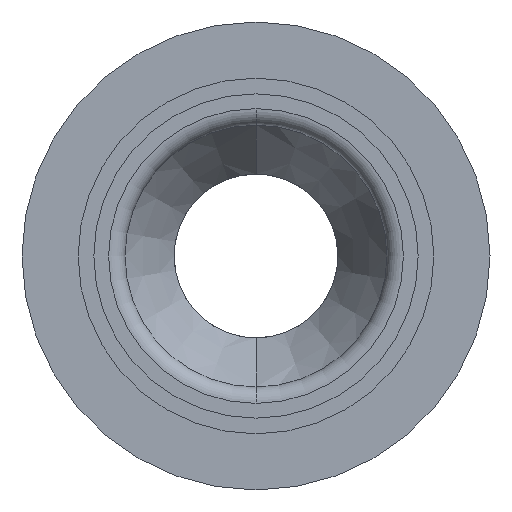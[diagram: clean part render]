
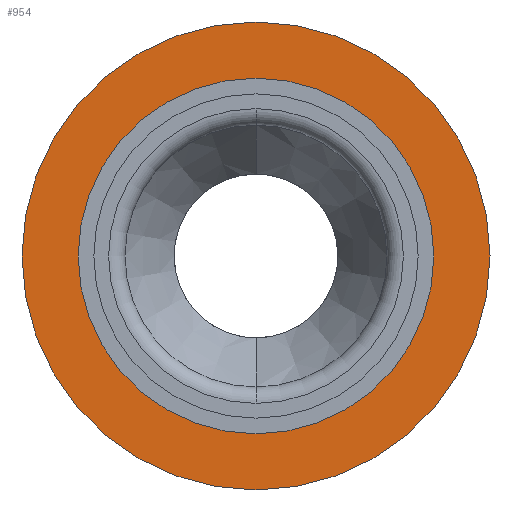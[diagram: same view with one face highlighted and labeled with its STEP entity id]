
A CAD part, front view. The second image highlights one B-rep face of the part: STEP entity #954.
In plain terms, the highlighted planar face has unit normal (0, -1, 0).
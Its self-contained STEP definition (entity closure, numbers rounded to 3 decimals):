
#146 = DIRECTION ( 'NONE',  ( 0., -1., 0. ) ) ;
#502 = AXIS2_PLACEMENT_3D ( 'NONE', #1125, #3077, #4535 ) ;
#642 = EDGE_CURVE ( 'NONE', #2531, #6106, #2020, .T. ) ;
#643 = EDGE_CURVE ( 'NONE', #5699, #1713, #6277, .T. ) ;
#679 = CARTESIAN_POINT ( 'NONE',  ( -369.933, -8708.459, -6.9 ) ) ;
#821 = ORIENTED_EDGE ( 'NONE', *, *, #643, .T. ) ;
#866 = AXIS2_PLACEMENT_3D ( 'NONE', #5808, #5851, #2950 ) ;
#954 = ADVANCED_FACE ( 'NONE', ( #4051, #1003 ), #6218, .F. ) ;
#1003 = FACE_OUTER_BOUND ( 'NONE', #4015, .T. ) ;
#1051 = CIRCLE ( 'NONE', #866, 6.9 ) ;
#1084 = DIRECTION ( 'NONE',  ( 0., -1., 0. ) ) ;
#1102 = CARTESIAN_POINT ( 'NONE',  ( -369.933, -8708.459, 10. ) ) ;
#1125 = CARTESIAN_POINT ( 'NONE',  ( -369.933, -8708.459, 0. ) ) ;
#1147 = DIRECTION ( 'NONE',  ( 0., 0., -1. ) ) ;
#1642 = ORIENTED_EDGE ( 'NONE', *, *, #5116, .F. ) ;
#1649 = AXIS2_PLACEMENT_3D ( 'NONE', #4256, #5680, #2820 ) ;
#1655 = ORIENTED_EDGE ( 'NONE', *, *, #642, .F. ) ;
#1713 = VERTEX_POINT ( 'NONE', #1820 ) ;
#1820 = CARTESIAN_POINT ( 'NONE',  ( -369.933, -8708.459, -10. ) ) ;
#2020 = CIRCLE ( 'NONE', #5519, 6.9 ) ;
#2344 = EDGE_CURVE ( 'NONE', #1713, #5699, #2570, .T. ) ;
#2531 = VERTEX_POINT ( 'NONE', #4157 ) ;
#2570 = CIRCLE ( 'NONE', #4092, 10. ) ;
#2820 = DIRECTION ( 'NONE',  ( 0., 0., 1. ) ) ;
#2950 = DIRECTION ( 'NONE',  ( 0., 0., 1. ) ) ;
#3077 = DIRECTION ( 'NONE',  ( 0., -1., 0. ) ) ;
#3336 = ORIENTED_EDGE ( 'NONE', *, *, #2344, .T. ) ;
#4015 = EDGE_LOOP ( 'NONE', ( #3336, #821 ) ) ;
#4051 = FACE_BOUND ( 'NONE', #5427, .T. ) ;
#4092 = AXIS2_PLACEMENT_3D ( 'NONE', #5484, #1084, #1147 ) ;
#4157 = CARTESIAN_POINT ( 'NONE',  ( -369.933, -8708.459, 6.9 ) ) ;
#4256 = CARTESIAN_POINT ( 'NONE',  ( -0.007, -8708.459, 0. ) ) ;
#4535 = DIRECTION ( 'NONE',  ( 0., 0., -1. ) ) ;
#4978 = DIRECTION ( 'NONE',  ( 0., 0., 1. ) ) ;
#5116 = EDGE_CURVE ( 'NONE', #6106, #2531, #1051, .T. ) ;
#5427 = EDGE_LOOP ( 'NONE', ( #1642, #1655 ) ) ;
#5484 = CARTESIAN_POINT ( 'NONE',  ( -369.933, -8708.459, 0. ) ) ;
#5519 = AXIS2_PLACEMENT_3D ( 'NONE', #6015, #146, #4978 ) ;
#5680 = DIRECTION ( 'NONE',  ( 0., 1., 0. ) ) ;
#5699 = VERTEX_POINT ( 'NONE', #1102 ) ;
#5808 = CARTESIAN_POINT ( 'NONE',  ( -369.933, -8708.459, 0. ) ) ;
#5851 = DIRECTION ( 'NONE',  ( 0., -1., 0. ) ) ;
#6015 = CARTESIAN_POINT ( 'NONE',  ( -369.933, -8708.459, 0. ) ) ;
#6106 = VERTEX_POINT ( 'NONE', #679 ) ;
#6218 = PLANE ( 'NONE',  #1649 ) ;
#6277 = CIRCLE ( 'NONE', #502, 10. ) ;
